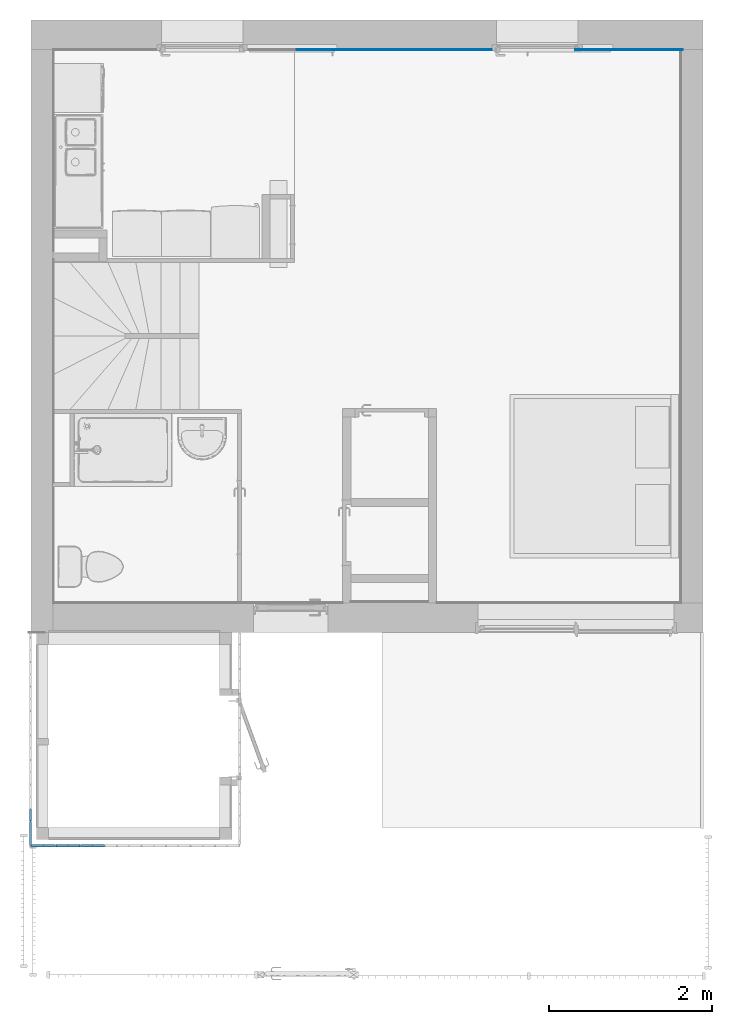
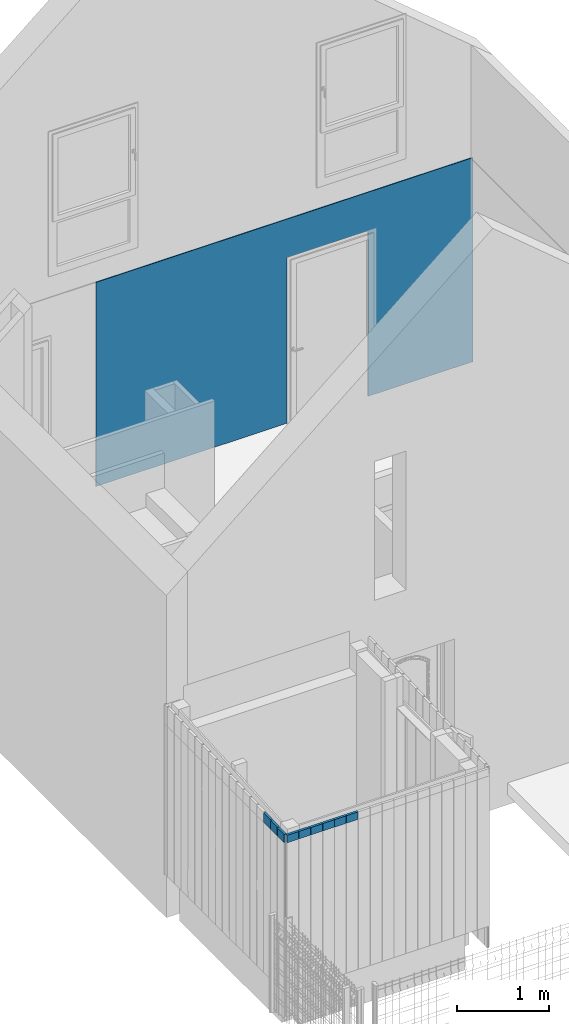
# One storey, part 70 of 81: 10 walls, 1 opening, 2 elements without a shape of their own.
"""IFC2X3 building model written with IfcOpenShell, lengths in metres."""

from ifc_helpers import new_model, entity, si_unit, converted_unit, derived_unit, direction, frame, frame_2d, origin, place, context, subcontext, project, spatial, rectangle, extrude, material, layer, layer_set, layer_usage, type_object, element, aggregate, save


model = new_model("IFC2X3")

# Units and contexts
model_context = context("Model", 3, precision=1e-05, world=origin(), true_north=direction((6.12303176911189e-17, 1.0)))
body_context = subcontext(model_context, "Body", "Model", "MODEL_VIEW")
ifc_project = project(units=[si_unit("LENGTHUNIT", "METRE"), si_unit("AREAUNIT", "SQUARE_METRE"), si_unit("VOLUMEUNIT", "CUBIC_METRE"), converted_unit("PLANEANGLEUNIT", "DEGREE", entity("IfcRatioMeasure", 0.0174532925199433), si_unit("PLANEANGLEUNIT", "RADIAN"), dimensions=[0, 0, 0, 0, 0, 0, 0]), si_unit("MASSUNIT", "GRAM", prefix="KILO"), derived_unit("MASSDENSITYUNIT", [(si_unit("MASSUNIT", "GRAM", prefix="KILO"), 1), (si_unit("LENGTHUNIT", "METRE"), -3)]), derived_unit("MOMENTOFINERTIAUNIT", [(si_unit("LENGTHUNIT", "METRE"), 4)]), si_unit("TIMEUNIT", "SECOND"), si_unit("FREQUENCYUNIT", "HERTZ"), si_unit("THERMODYNAMICTEMPERATUREUNIT", "DEGREE_CELSIUS"), derived_unit("THERMALTRANSMITTANCEUNIT", [(si_unit("MASSUNIT", "GRAM", prefix="KILO"), 1), (si_unit("THERMODYNAMICTEMPERATUREUNIT", "KELVIN"), -1), (si_unit("TIMEUNIT", "SECOND"), -3)]), derived_unit("VOLUMETRICFLOWRATEUNIT", [(si_unit("LENGTHUNIT", "METRE"), 3), (si_unit("TIMEUNIT", "SECOND"), -1)]), si_unit("ELECTRICCURRENTUNIT", "AMPERE"), si_unit("ELECTRICVOLTAGEUNIT", "VOLT"), si_unit("POWERUNIT", "WATT"), si_unit("FORCEUNIT", "NEWTON", prefix="KILO"), si_unit("ILLUMINANCEUNIT", "LUX"), si_unit("LUMINOUSFLUXUNIT", "LUMEN"), si_unit("LUMINOUSINTENSITYUNIT", "CANDELA"), derived_unit("USERDEFINED", [(si_unit("MASSUNIT", "GRAM", prefix="KILO"), -1), (si_unit("LENGTHUNIT", "METRE"), -2), (si_unit("TIMEUNIT", "SECOND"), 3), (si_unit("LUMINOUSFLUXUNIT", "LUMEN"), 1)]), derived_unit("LINEARVELOCITYUNIT", [(si_unit("LENGTHUNIT", "METRE"), 1), (si_unit("TIMEUNIT", "SECOND"), -1)]), si_unit("PRESSUREUNIT", "PASCAL"), derived_unit("USERDEFINED", [(si_unit("LENGTHUNIT", "METRE"), -2), (si_unit("MASSUNIT", "GRAM", prefix="KILO"), 1), (si_unit("TIMEUNIT", "SECOND"), -2)]), derived_unit("LINEARFORCEUNIT", [(si_unit("MASSUNIT", "GRAM", prefix="KILO"), 1), (si_unit("LENGTHUNIT", "METRE"), 1), (si_unit("TIMEUNIT", "SECOND"), -2), (si_unit("LENGTHUNIT", "METRE"), -1)]), derived_unit("PLANARFORCEUNIT", [(si_unit("MASSUNIT", "GRAM", prefix="KILO"), 1), (si_unit("LENGTHUNIT", "METRE"), 1), (si_unit("TIMEUNIT", "SECOND"), -2), (si_unit("LENGTHUNIT", "METRE"), -2)])], contexts=[model_context])

# Site, building, storey
site_placement = place(None, origin())
site = spatial("IfcSite", under=ifc_project, at=site_placement, Name="Surface", CompositionType="ELEMENT")
building_placement = place(site_placement, origin())
building = spatial("IfcBuilding", under=site, at=building_placement, CompositionType="ELEMENT")
storey_placement = place(building_placement, origin())
storey = spatial("IfcBuildingStorey", under=building, at=storey_placement, Name="01 RDC", CompositionType="ELEMENT", Elevation=-1.94916083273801e-14)

# Curtain wall, walls
curtain_wall_type = type_object("IfcCurtainWallType", Name="Mur-rideau:1m x 2m", PredefinedType="NOTDEFINED")
curtain_wall_1_placement = place(storey_placement, origin())
curtain_wall_1 = element("IfcCurtainWall", 1, at=curtain_wall_1_placement, inside=storey, type_object=curtain_wall_type, Name="Mur-rideau:1m x 2m", ObjectType="Mur-rideau:1m x 2m")
ifc_material_1 = material(Name="Résineux, bois de construction")
ifc_layer_1 = layer(ifc_material_1, 0.03)
ifc_layer_set_1 = layer_set([ifc_layer_1], Name="Mur-rideau:1m x 2m")
ifc_layer_usage_1 = layer_usage(ifc_layer_set_1, "AXIS2", "POSITIVE", -0.015)
wall_type_1 = type_object("IfcWallType", Name="Mur de base:Panneau Triply 30 mm", PredefinedType="NOTDEFINED", material=ifc_layer_set_1)
wall_1_placement = place(storey_placement, frame((5.45983615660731, -6.30471095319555, 2.3), z_axis=(0.0, 0.0, 1.0), x_axis=(0.0, 1.0, 0.0)))
wall_1 = element("IfcWallStandardCase", 2, at=wall_1_placement, type_object=wall_type_1, material=ifc_layer_usage_1, Name="Mur de base:Panneau Triply 30 mm", ObjectType="Mur de base:Panneau Triply 30 mm", context=body_context, shape_type="SweptSolid", body=[
    extrude(rectangle(XDim=0.145009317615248, YDim=0.0299999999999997, at=frame_2d((0.0725046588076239, 1.24032728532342e-16), x_axis=(-1.0, 0.0))), origin(), (0.0, 0.0, 1.0), 0.107941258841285),
])
ifc_layer_usage_2 = layer_usage(ifc_layer_set_1, "AXIS2", "POSITIVE", -0.015)
wall_2_placement = place(storey_placement, frame((5.45983615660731, -6.1547202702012, 2.3), z_axis=(0.0, 0.0, 1.0), x_axis=(0.0, 1.0, 0.0)))
wall_2 = element("IfcWallStandardCase", 3, at=wall_2_placement, type_object=wall_type_1, material=ifc_layer_usage_2, Name="Mur de base:Panneau Triply 30 mm", ObjectType="Mur de base:Panneau Triply 30 mm", context=body_context, shape_type="SweptSolid", body=[
    extrude(rectangle(XDim=0.145018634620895, YDim=0.0299999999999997, at=frame_2d((0.0725093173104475, 1.24032728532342e-16), x_axis=(-1.0, 0.0))), origin(), (0.0, 0.0, 1.0), 0.117115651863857),
])
ifc_layer_usage_3 = layer_usage(ifc_layer_set_1, "AXIS2", "POSITIVE", -0.015)
wall_3_placement = place(storey_placement, frame((5.45983615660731, -6.0047202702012, 2.3), z_axis=(0.0, 0.0, 1.0), x_axis=(0.0, 1.0, 0.0)))
wall_3 = element("IfcWallStandardCase", 4, at=wall_3_placement, type_object=wall_type_1, material=ifc_layer_usage_3, Name="Mur de base:Panneau Triply 30 mm", ObjectType="Mur de base:Panneau Triply 30 mm", context=body_context, shape_type="SweptSolid", body=[
    extrude(rectangle(XDim=0.145018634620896, YDim=0.0299999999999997, at=frame_2d((0.0725093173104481, -4.17200995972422e-16), x_axis=(-1.0, 0.0))), origin(), (0.0, 0.0, 1.0), 0.12629004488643),
])
aggregate(curtain_wall_1, [wall_1, wall_2, wall_3])

curtain_wall_2_placement = place(storey_placement, origin())
curtain_wall_2 = element("IfcCurtainWall", 5, at=curtain_wall_2_placement, inside=storey, type_object=curtain_wall_type, Name="Mur-rideau:1m x 2m", ObjectType="Mur-rideau:1m x 2m")
ifc_layer_usage_4 = layer_usage(ifc_layer_set_1, "AXIS2", "POSITIVE", -0.015)
wall_4_placement = place(storey_placement, frame((6.36656158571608, -6.30971095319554, 2.29999999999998), z_axis=(0.0, 0.0, 1.0), x_axis=(-1.0, 0.0, 0.0)))
wall_4 = element("IfcWallStandardCase", 6, at=wall_4_placement, type_object=wall_type_1, material=ifc_layer_usage_4, Name="Mur de base:Panneau Triply 30 mm", ObjectType="Mur de base:Panneau Triply 30 mm", context=body_context, shape_type="SweptSolid", body=[
    extrude(rectangle(XDim=0.144999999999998, YDim=0.0299999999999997, at=frame_2d((0.0724999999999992, 2.25514051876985e-16), x_axis=(-1.0, 0.0))), origin(), (0.0, 0.0, 1.0), 0.0992255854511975),
])
ifc_layer_usage_5 = layer_usage(ifc_layer_set_1, "AXIS2", "POSITIVE", -0.015)
wall_5_placement = place(storey_placement, frame((6.21656158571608, -6.30971095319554, 2.29999999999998), z_axis=(0.0, 0.0, 1.0), x_axis=(-1.0, 0.0, 0.0)))
wall_5 = element("IfcWallStandardCase", 7, at=wall_5_placement, type_object=wall_type_1, material=ifc_layer_usage_5, Name="Mur de base:Panneau Triply 30 mm", ObjectType="Mur de base:Panneau Triply 30 mm", context=body_context, shape_type="SweptSolid", body=[
    extrude(rectangle(XDim=0.145, YDim=0.0299999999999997, at=frame_2d((0.0724999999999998, 2.25514051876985e-16), x_axis=(-1.0, 0.0))), origin(), (0.0, 0.0, 1.0), 0.0992255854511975),
])
ifc_layer_usage_6 = layer_usage(ifc_layer_set_1, "AXIS2", "POSITIVE", -0.015)
wall_6_placement = place(storey_placement, frame((6.06656158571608, -6.30971095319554, 2.29999999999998), z_axis=(0.0, 0.0, 1.0), x_axis=(-1.0, 0.0, 0.0)))
wall_6 = element("IfcWallStandardCase", 8, at=wall_6_placement, type_object=wall_type_1, material=ifc_layer_usage_6, Name="Mur de base:Panneau Triply 30 mm", ObjectType="Mur de base:Panneau Triply 30 mm", context=body_context, shape_type="SweptSolid", body=[
    extrude(rectangle(XDim=0.144999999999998, YDim=0.0299999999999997, at=frame_2d((0.0724999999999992, -3.15719672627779e-16), x_axis=(-1.0, 0.0))), origin(), (0.0, 0.0, 1.0), 0.0992255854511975),
])
ifc_layer_usage_7 = layer_usage(ifc_layer_set_1, "AXIS2", "POSITIVE", -0.015)
wall_7_placement = place(storey_placement, frame((5.91656158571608, -6.30971095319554, 2.29999999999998), z_axis=(0.0, 0.0, 1.0), x_axis=(-1.0, 0.0, 0.0)))
wall_7 = element("IfcWallStandardCase", 9, at=wall_7_placement, type_object=wall_type_1, material=ifc_layer_usage_7, Name="Mur de base:Panneau Triply 30 mm", ObjectType="Mur de base:Panneau Triply 30 mm", context=body_context, shape_type="SweptSolid", body=[
    extrude(rectangle(XDim=0.145, YDim=0.0299999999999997, at=frame_2d((0.0724999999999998, 2.25514051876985e-16), x_axis=(-1.0, 0.0))), origin(), (0.0, 0.0, 1.0), 0.0992255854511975),
])
ifc_layer_usage_8 = layer_usage(ifc_layer_set_1, "AXIS2", "POSITIVE", -0.015)
wall_8_placement = place(storey_placement, frame((5.76656158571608, -6.30971095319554, 2.29999999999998), z_axis=(0.0, 0.0, 1.0), x_axis=(-1.0, 0.0, 0.0)))
wall_8 = element("IfcWallStandardCase", 10, at=wall_8_placement, type_object=wall_type_1, material=ifc_layer_usage_8, Name="Mur de base:Panneau Triply 30 mm", ObjectType="Mur de base:Panneau Triply 30 mm", context=body_context, shape_type="SweptSolid", body=[
    extrude(rectangle(XDim=0.144999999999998, YDim=0.0299999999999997, at=frame_2d((0.0724999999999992, -3.15719672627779e-16), x_axis=(-1.0, 0.0))), origin(), (0.0, 0.0, 1.0), 0.0992255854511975),
])
ifc_layer_usage_9 = layer_usage(ifc_layer_set_1, "AXIS2", "POSITIVE", -0.015)
wall_9_placement = place(storey_placement, frame((5.61656158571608, -6.30971095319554, 2.29999999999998), z_axis=(0.0, 0.0, 1.0), x_axis=(-1.0, 0.0, 0.0)))
wall_9 = element("IfcWallStandardCase", 11, at=wall_9_placement, type_object=wall_type_1, material=ifc_layer_usage_9, Name="Mur de base:Panneau Triply 30 mm", ObjectType="Mur de base:Panneau Triply 30 mm", context=body_context, shape_type="SweptSolid", body=[
    extrude(rectangle(XDim=0.145, YDim=0.0299999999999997, at=frame_2d((0.0724999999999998, 2.25514051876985e-16), x_axis=(-1.0, 0.0))), origin(), (0.0, 0.0, 1.0), 0.0992255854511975),
])
aggregate(curtain_wall_2, [wall_4, wall_5, wall_6, wall_7, wall_8, wall_9])

# Wall, opening
ifc_material_2 = material(Name="Placoplâtre de gypse")
ifc_layer_2 = layer(ifc_material_2, 0.01)
ifc_layer_set_2 = layer_set([ifc_layer_2], Name="Mur de base:Int. Plâtre 10 mm")
ifc_layer_usage_10 = layer_usage(ifc_layer_set_2, "AXIS2", "POSITIVE", -0.005)
wall_type_2 = type_object("IfcWallType", Name="Mur de base:Int. Plâtre 10 mm", PredefinedType="STANDARD", material=ifc_layer_set_2)
wall_10_placement = place(storey_placement, frame((8.6965615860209, 3.43903904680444, 0.0)))
wall_10 = element("IfcWallStandardCase", 12, at=wall_10_placement, inside=storey, type_object=wall_type_2, material=ifc_layer_usage_10, Name="Mur de base:Int. Plâtre 10 mm", ObjectType="Mur de base:Int. Plâtre 10 mm", context=body_context, shape_type="SweptSolid", body=[
    extrude(rectangle(XDim=4.75, YDim=0.00999999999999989, at=frame_2d((2.375, 0.0), x_axis=(-1.0, 0.0))), origin(), (0.0, 0.0, 1.0), 2.72000000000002),
])
opening_placement = place(wall_10_placement, origin())
element("IfcOpeningElement", 13, at=opening_placement, cuts=wall_10, Name="Mur de base:Int. Plâtre 10 mm", ObjectType="Opening", context=body_context, shape_type="SweptSolid", body=[
    extrude(rectangle(XDim=2.26614244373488, YDim=1.02, at=frame_2d((0.0, 1.0547118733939e-15), x_axis=(1.0, 0.0))), frame((2.92019999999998, -0.00499999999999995, 1.07307122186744), z_axis=(0.0, 1.0, 0.0), x_axis=(0.0, 0.0, -1.0)), (0.0, 0.0, 1.0), 0.00999999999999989),
])

save(model, "model.ifc")
